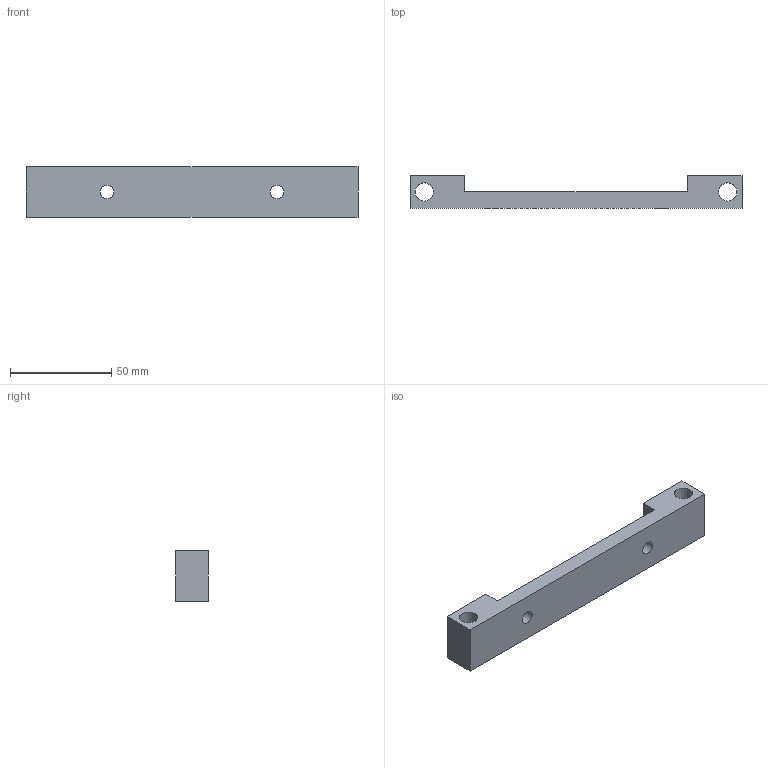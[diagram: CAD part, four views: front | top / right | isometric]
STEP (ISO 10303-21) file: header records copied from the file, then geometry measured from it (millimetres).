
FILE_DESCRIPTION(('STEP AP203'), '1');
FILE_NAME('ﾒﾏﾏﾔ1800.01.01.13.002 - ﾍ瑜粱', '', ('UNSPECIFIED'), ('UNSPECIFIED'), 'C3D Converter', 'C3D Toolkit', '');
FILE_SCHEMA(('CONFIG_CONTROL_DESIGN'));
Length unit declared in the file: millimetre
Products named in the file (1): ТППФ1800.01.01.13.002
Bounding box: 164 x 16 x 25 mm (x, y, z)
Volume: 39841 mm3; surface area: 14220.7 mm2
Topology: 1 solids, 1 shells, 16 faces, 40 edges, 26 vertices
Faces by surface type: plane 10, cylinder 4, cone 2
Full cylindrical faces by diameter (mm): 6.647 x2, 9 x2
Entity records: 632 total; most frequent: DIRECTION 78, CARTESIAN_POINT 77, ORIENTED_EDGE 68, EDGE_CURVE 34, EDGE_LOOP 30, AXIS2_PLACEMENT_3D 27, VERTEX_POINT 26, LINE 24
